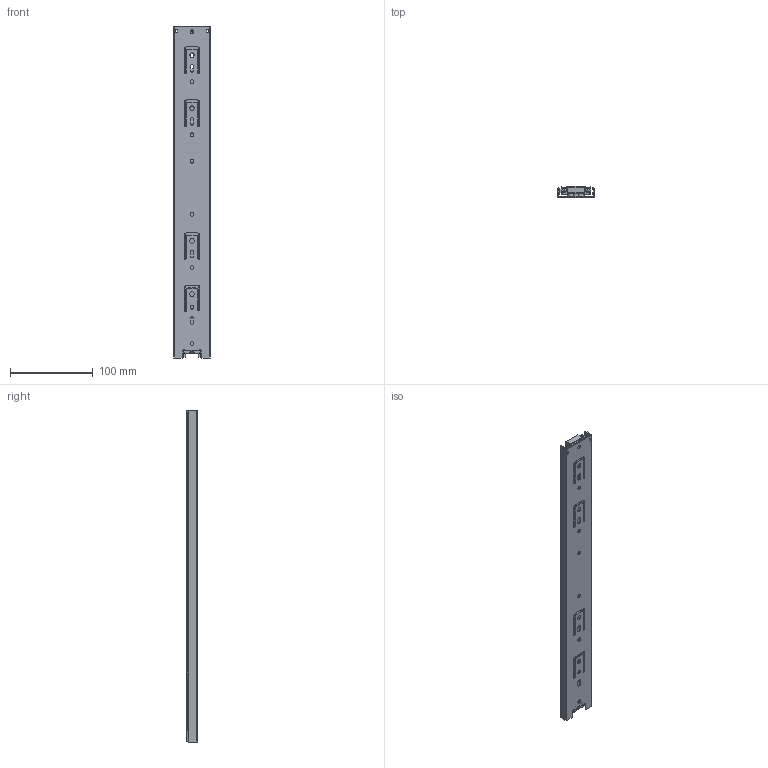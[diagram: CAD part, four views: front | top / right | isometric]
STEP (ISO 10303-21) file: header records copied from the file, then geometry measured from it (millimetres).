
FILE_DESCRIPTION(/* description */ (''),/* implementation_level */ '2;1');
FILE_NAME(/* name */ 'C:\Users\dmitruk\Documents\WORK\\X2\041D0410041F042004100412041B042F042E042904180415\X0\\Шариковые\h45 L-400 AKS.stp',/* time_stamp */ '2022-04-19T17:32:25+03:00',/* author */ ('dmitruk'),/* organization */ ('AKS'),/* preprocessor_version */ 'ST-DEVELOPER v16.5',/* originating_system */ 'Autodesk Inventor 2017',/* authorisation */ '');
FILE_SCHEMA (('AUTOMOTIVE_DESIGN { 1 0 10303 214 3 1 1 }'));
Length unit declared in the file: millimetre
Products named in the file (5): h45 L-400 AKS; h45 L-400 AKS_11; h45 L-400 AKS_12; h45 L-400_13; h45 L-400 AKS_2
Assembly tree (4 placements, depth 2):
  h45 L-400 AKS
    h45 L-400 AKS_11
    h45 L-400 AKS_12
    h45 L-400_13
    h45 L-400 AKS_2
Bounding box: 44 x 13 x 400.01 mm (x, y, z)
Volume: 63468.9 mm3; surface area: 125718.7 mm2
Topology: 4 solids, 4 shells, 711 faces, 2037 edges, 1334 vertices
Faces by surface type: plane 400, cylinder 263, sphere 48
Full cylindrical faces by diameter (mm): 4.5 x11, 5.5 x4
Entity records: 23823 total; most frequent: CARTESIAN_POINT 4334, DIRECTION 4077, ORIENTED_EDGE 4038, EDGE_CURVE 2019, AXIS2_PLACEMENT_3D 1366, LINE 1345, VECTOR 1345, VERTEX_POINT 1331
